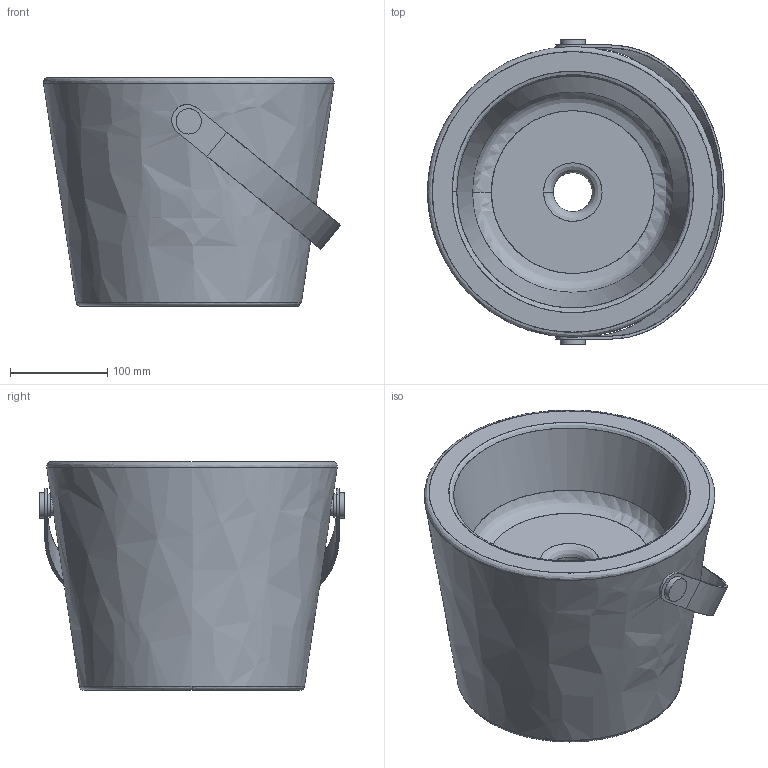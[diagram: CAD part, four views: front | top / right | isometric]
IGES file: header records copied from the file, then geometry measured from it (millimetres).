
Start section: C
Global section: file name: Assieme Bucket 30 per rendering.igs; native system:  By UGS Corp.; preprocessor: XPlus GENERIC/IGES 3.0; author: Author; organization: Title; date: 20120706.140945; units: millimetre
Bounding box: 304.98 x 314 x 235 mm (x, y, z)
Surface area: 470643.9 mm2 (no closed solid volume)
Topology: 0 solids, 0 shells, 69 faces, 344 edges, 344 vertices
Faces by surface type: bspline 69
